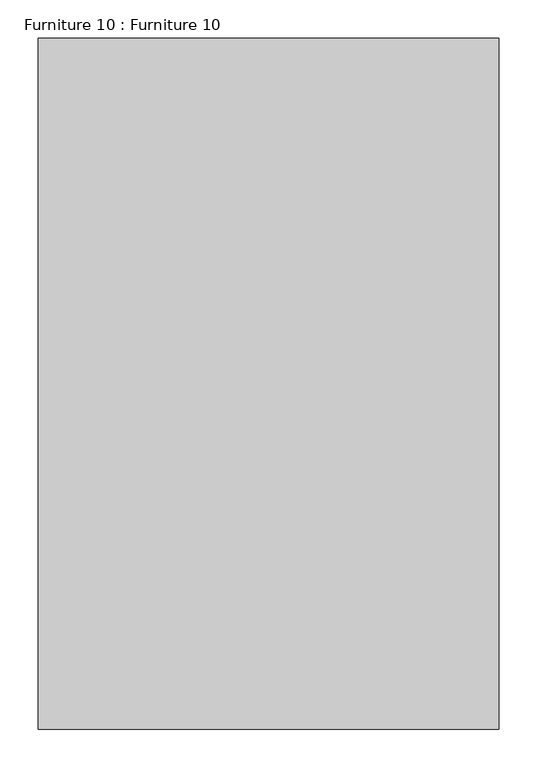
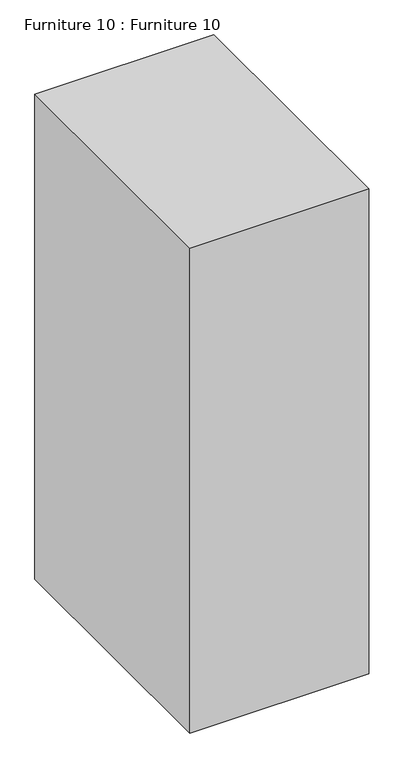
"""IFC4 building model written with IfcOpenShell, lengths in millimetres: furniture geometry, Furniture 10 : Furniture 10."""

from ifc_helpers import new_model, si_unit, frame, origin, place, context, project, spatial, polyline, outline, extrude, source, transform, mapped, element, save


def furniture_10_furniture_10_9c493bfb(model_context):
    return source(origin(), model_context, "Body", "SweptSolid", [
        extrude(outline(polyline([(-14097.7873937, 6218.0013961), (-14097.7873937, 5318.0013961), (-14697.7873937, 5318.0013961), (-14697.7873937, 6218.0013961), (-14097.7873937, 6218.0013961)])), frame((0.0, 0.0, 2510.0), z_axis=(0.0, 0.0, 1.0), x_axis=(1.0, 0.0, 0.0)), (0.0, 0.0, 1.0), 1720.0),
    ])


if __name__ == "__main__":
    model = new_model("IFC4")
    model_context = context("Model", 3, world=origin())
    ifc_project = project(units=[si_unit("LENGTHUNIT", "METRE", prefix="MILLI")], contexts=[model_context])
    site = spatial("IfcSite", under=ifc_project)
    building = spatial("IfcBuilding", under=site)
    placement = place(None, origin())
    furniture_10_furniture_10_shape = furniture_10_furniture_10_9c493bfb(model_context)
    element("IfcFurniture", 1, ObjectType="Furniture 10 : Furniture 10", at=placement, inside=building, context=model_context, shape_type="MappedRepresentation", body=[
        mapped(furniture_10_furniture_10_shape, transform((0.0, 0.0, 0.0), x_axis=(1.0, 0.0, 0.0), y_axis=(0.0, 1.0, 0.0), z_axis=(0.0, 0.0, 1.0))),
    ])
    save(model, "model.ifc")
